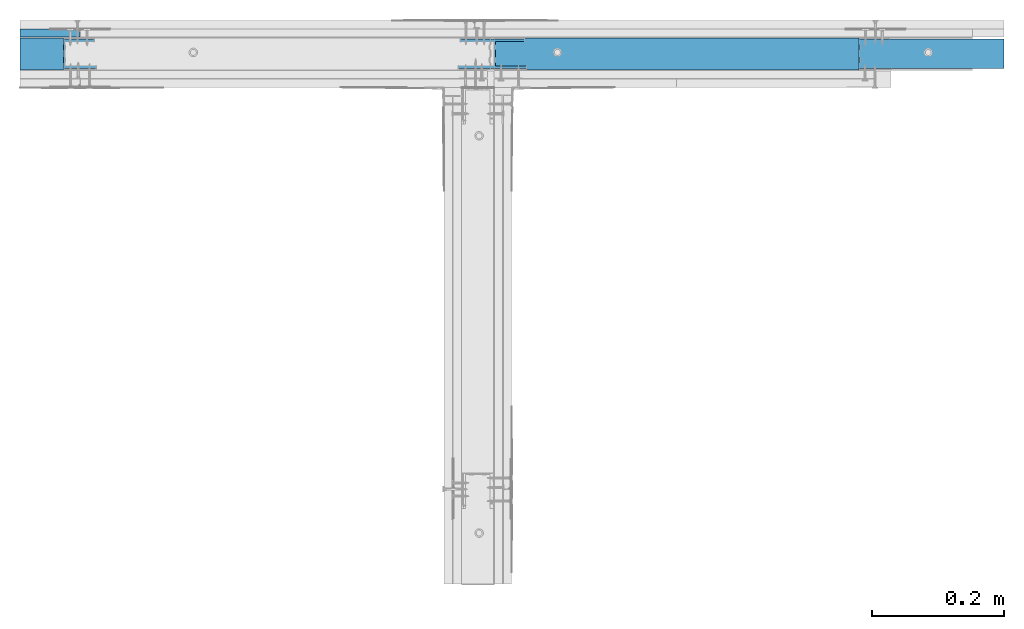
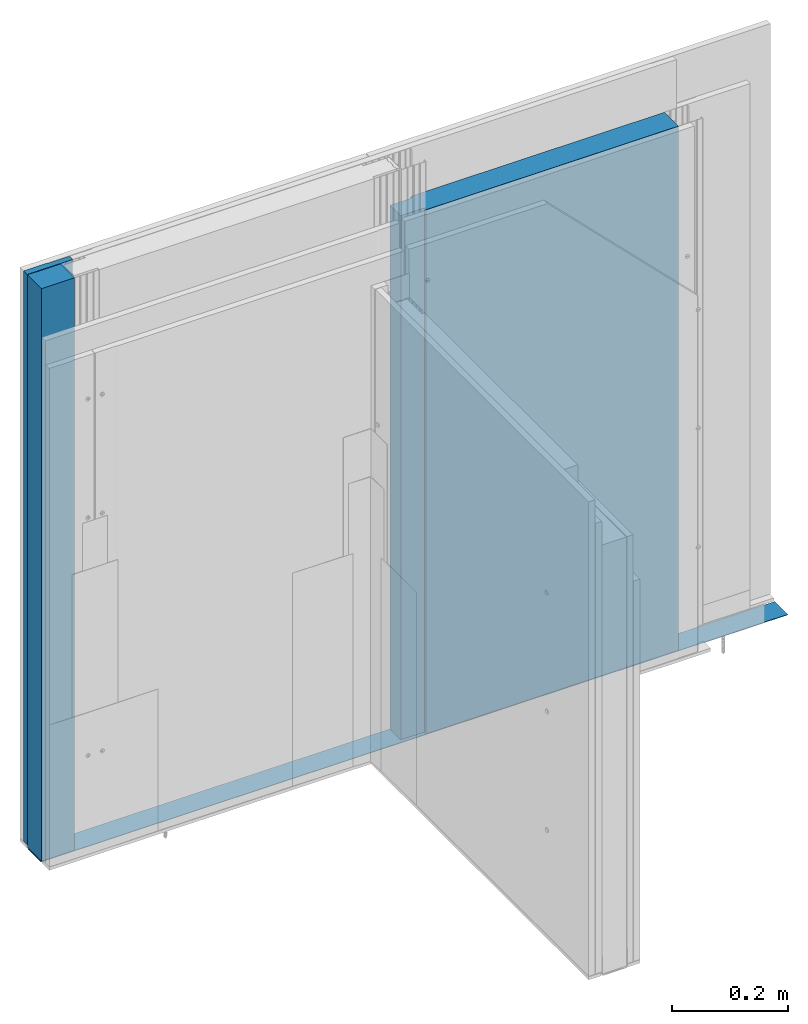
# One storey, part 3 of 95: 4 walls.
"""IFC2X3 building model written with IfcOpenShell, lengths in millimetres."""

from ifc_helpers import new_model, entity, si_unit, converted_unit, direction, frame, origin, origin_with_axes, place, context, project, spatial, faceted_brep, element, save


model = new_model("IFC2X3")

# Units and contexts
model_context = context("Model", 3, precision=1e-05, world=origin(), true_north=direction((0.0, 1.0, 0.0)))
ifc_project = project(units=[si_unit("LENGTHUNIT", "METRE", prefix="MILLI"), si_unit("AREAUNIT", "SQUARE_METRE"), si_unit("VOLUMEUNIT", "CUBIC_METRE"), converted_unit("PLANEANGLEUNIT", "DEGREE", entity("IfcPlaneAngleMeasure", 0.01745), si_unit("PLANEANGLEUNIT", "RADIAN"), dimensions=[0, 0, 0, 0, 0, 0, 0]), si_unit("SOLIDANGLEUNIT", "STERADIAN"), si_unit("MASSUNIT", "GRAM"), si_unit("TIMEUNIT", "SECOND"), si_unit("THERMODYNAMICTEMPERATUREUNIT", "DEGREE_CELSIUS"), si_unit("LUMINOUSINTENSITYUNIT", "LUMEN")], contexts=[model_context])

# Site, building, storey
site_placement = place(None, origin_with_axes())
site = spatial("IfcSite", under=ifc_project, at=site_placement, Name="Default Site", CompositionType="ELEMENT")
building_placement = place(site_placement, origin_with_axes())
building = spatial("IfcBuilding", under=site, at=building_placement, Name="Default Building", CompositionType="ELEMENT")
storey_placement = place(building_placement, origin_with_axes())
storey = spatial("IfcBuildingStorey", under=building, at=storey_placement, Name="Default Building Storey", CompositionType="ELEMENT", Elevation=0.0)

# Walls
wall_1_placement = place(storey_placement, frame((2215.544899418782, 2098.101767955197, 1403.656223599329), z_axis=(0.0, 0.0, 1.0), x_axis=(-1.0, 0.0, 0.0)))
element("IfcWall", 1, at=wall_1_placement, inside=storey, Name="Płyta gipsowo-kartonowa RIGIPS PRO (4PRO™)", context=model_context, shape_type="Brep", body=[
    faceted_brep([(90.5197659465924, -12.49999999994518, -193.6562235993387), (90.51976594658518, 5.630909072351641e-11, -193.6562235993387), (90.51976594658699, 5.630909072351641e-11, -1393.657805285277), (90.5197659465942, -12.49999999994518, -1393.657805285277), (-3.609557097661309e-13, -3.609557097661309e-13, -193.6562235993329), (44.99999999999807, -12.50000000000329, -193.6562235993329), (40.99999999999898, -11.5000000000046, -193.6562235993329), (0.9999999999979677, -11.50000000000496, -193.6562235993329), (0.7411809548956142, -11.46592582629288, -193.6562235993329), (0.4999999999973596, -11.36602540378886, -193.6562235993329), (0.2928932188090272, -11.20710678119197, -193.6562235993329), (0.1339745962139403, -11.00000000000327, -193.6562235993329), (0.03407417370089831, -10.75881904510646, -193.6562235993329), (-3.248601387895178e-12, -10.50000000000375, -193.6562235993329), (44.99999999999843, -12.50000000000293, -1393.657805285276), (40.99999999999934, -11.50000000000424, -1393.657805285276), (0.9999999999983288, -11.5000000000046, -1393.657805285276), (0.7411809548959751, -11.46592582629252, -1393.657805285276), (0.4999999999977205, -11.3660254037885, -1393.657805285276), (0.2928932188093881, -11.20710678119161, -1393.657805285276), (0.1339745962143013, -11.00000000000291, -1393.657805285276), (0.03407417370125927, -10.7588190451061, -1393.657805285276), (-2.887645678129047e-12, -10.50000000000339, -1393.657805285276), (0.0, 0.0, -1393.657805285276)], [[[0, 1, 2, 3]], [[4, 1, 0, 5, 6, 7, 8, 9, 10, 11, 12, 13]], [[0, 3, 14, 5]], [[6, 5, 14, 15]], [[7, 6, 15, 16]], [[8, 7, 16, 17]], [[9, 8, 17, 18]], [[10, 9, 18, 19]], [[11, 10, 19, 20]], [[12, 11, 20, 21]], [[13, 12, 21, 22]], [[4, 13, 22, 23]], [[23, 2, 1, 4]], [[14, 3, 2, 23, 22, 21, 20, 19, 18, 17, 16, 15]]]),
])
wall_2_placement = place(storey_placement, frame((1754.620820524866, 5528.384991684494, 108.8006114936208), z_axis=(0.0, 0.0, 1.0), x_axis=(1.0, 0.0, 0.0)))
element("IfcWall", 2, at=wall_2_placement, inside=storey, Name="Wełna mineralna szklana lub skalna ISOVER", context=model_context, shape_type="Brep", body=[
    faceted_brep([(370.4043129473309, -3431.283223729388, 1101.199388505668), (370.4043129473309, -3479.633223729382, 1101.199388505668), (370.4043129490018, -3479.633223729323, -103.0602162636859), (370.4043129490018, -3431.283223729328, -103.0602162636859), (436.3541180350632, -3431.283223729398, -103.0602162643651), (436.3541180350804, -3431.283223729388, 1101.199388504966), (436.3541180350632, -3479.633223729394, -103.060216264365), (436.3541180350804, -3479.633223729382, 1101.199388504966)], [[[0, 1, 2, 3]], [[3, 4, 5, 0]], [[2, 6, 4, 3]], [[2, 1, 7, 6]], [[0, 5, 7, 1]], [[6, 7, 5, 4]]]),
])
wall_3_placement = place(storey_placement, frame((3004.668103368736, 5528.384991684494, 8.800611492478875), z_axis=(0.0, 0.0, 1.0), x_axis=(1.0, 0.0, 0.0)))
element("IfcWall", 3, at=wall_3_placement, inside=storey, Name="Wełna mineralna szklana lub skalna ISOVER", context=model_context, shape_type="Brep", body=[
    faceted_brep([(-161.2958819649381, -3473.633223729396, -3.060216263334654), (-161.2958819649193, -3473.633223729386, 1099.448385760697), (-114.6214102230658, -3473.633223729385, 1099.448385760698), (-114.6214102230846, -3473.633223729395, -3.060216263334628), (-114.6214102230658, -3479.633223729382, 1099.448385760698), (-114.6214102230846, -3479.633223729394, -3.060216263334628), (-161.2958819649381, -3436.833223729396, -3.06021626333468), (-161.2958819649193, -3436.833223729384, 1099.448385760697), (-117.6214102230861, -3436.833223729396, -3.060216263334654), (-117.6214102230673, -3436.833223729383, 1099.448385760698), (-117.6214102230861, -3431.283223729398, -3.060216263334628), (387.5039028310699, -3431.283223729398, -3.060216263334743), (387.5039028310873, -3431.283223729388, 1099.448385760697), (-117.6214102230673, -3431.283223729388, 1099.448385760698), (387.5039028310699, -3479.633223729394, -3.060216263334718), (387.5039028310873, -3479.633223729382, 1099.448385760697)], [[[0, 1, 2, 3]], [[3, 2, 4, 5]], [[1, 0, 6, 7]], [[7, 6, 8, 9]], [[10, 11, 12, 13]], [[9, 8, 10, 13]], [[3, 5, 14, 11, 10, 8, 6, 0]], [[4, 15, 14, 5]], [[15, 4, 2, 1, 7, 9, 13, 12]], [[14, 15, 12, 11]]]),
])
wall_4_placement = place(storey_placement, frame((3390.946396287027, 5528.384991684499, 8.39039523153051), z_axis=(7.268591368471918e-14, -6.858158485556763e-13, 1.0), x_axis=(1.0, -1.018434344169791e-16, -7.988767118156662e-14)))
element("IfcWall", 4, at=wall_4_placement, inside=storey, Name="Taśma uszczelniająca piankowa RIGIPS", context=model_context, shape_type="Brep", body=[
    faceted_brep([(-1265.921262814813, -3477.783223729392, -5.000000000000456), (-1265.921262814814, -3477.862841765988, -6.00636944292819), (-1265.921262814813, -3432.691889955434, -5.864971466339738), (-1265.921262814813, -3432.783223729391, -5.000000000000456), (220.2094726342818, -3477.862841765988, -6.006369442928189), (220.2094726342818, -3477.783223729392, -5.000000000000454), (220.2094726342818, -3432.783223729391, -5.000000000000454), (220.2094726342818, -3432.691889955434, -5.864971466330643)], [[[0, 1, 2, 3]], [[4, 5, 6, 7]], [[5, 0, 3, 6]], [[6, 3, 2, 7]], [[7, 2, 1, 4]], [[4, 1, 0, 5]]]),
])

save(model, "model.ifc")
